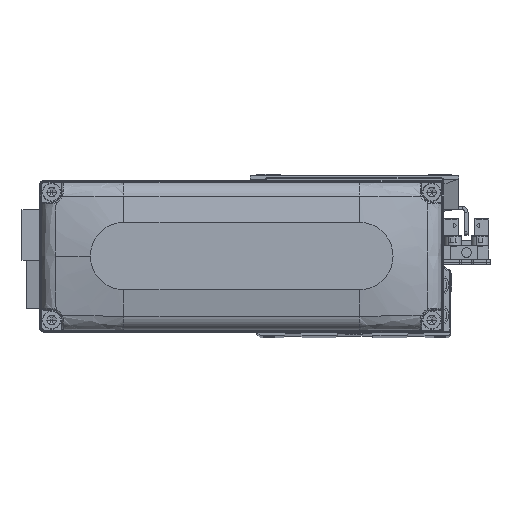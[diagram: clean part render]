
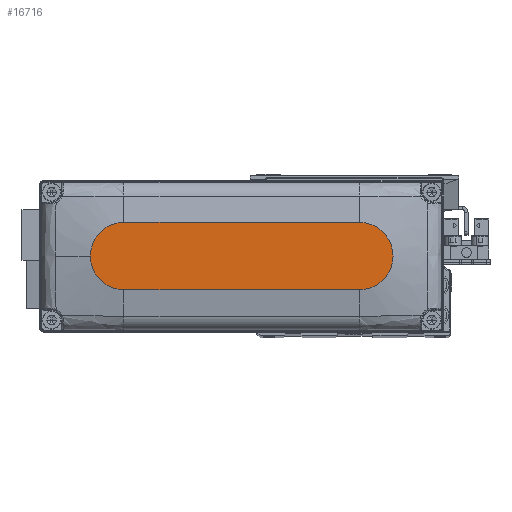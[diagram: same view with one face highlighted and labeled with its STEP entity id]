
A CAD part, top view. The second image highlights one B-rep face of the part: STEP entity #16716.
In plain terms, the highlighted planar face has unit normal (0, 0, 1).
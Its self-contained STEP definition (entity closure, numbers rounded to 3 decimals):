
#38 = EDGE_CURVE ( 'NONE', #31566, #33547, #14646, .T. ) ;
#902 = FACE_OUTER_BOUND ( 'NONE', #9800, .T. ) ;
#4597 = CARTESIAN_POINT ( 'NONE',  ( -35., -10., 28. ) ) ;
#4934 = DIRECTION ( 'NONE',  ( 1., 0., 0. ) ) ;
#4972 = EDGE_CURVE ( 'NONE', #35381, #32590, #33810, .T. ) ;
#6439 = DIRECTION ( 'NONE',  ( -1., 0., 0. ) ) ;
#6681 = AXIS2_PLACEMENT_3D ( 'NONE', #26923, #39911, #10688 ) ;
#7941 = DIRECTION ( 'NONE',  ( 1., 0., 0. ) ) ;
#8014 = CARTESIAN_POINT ( 'NONE',  ( 35., -10., 28. ) ) ;
#8061 = AXIS2_PLACEMENT_3D ( 'NONE', #21137, #34154, #4934 ) ;
#8612 = CARTESIAN_POINT ( 'NONE',  ( -35., 10., 28. ) ) ;
#8687 = CARTESIAN_POINT ( 'NONE',  ( 35., 10., 28. ) ) ;
#9800 = EDGE_LOOP ( 'NONE', ( #17842, #14691, #24577, #22629, #41494 ) ) ;
#10688 = DIRECTION ( 'NONE',  ( 1., 0., 0. ) ) ;
#11313 = EDGE_CURVE ( 'NONE', #32590, #31566, #39185, .T. ) ;
#12531 = CARTESIAN_POINT ( 'NONE',  ( 35., 0., 28. ) ) ;
#12786 = CARTESIAN_POINT ( 'NONE',  ( -35., -10., 28. ) ) ;
#13881 = PLANE ( 'NONE',  #6681 ) ;
#14081 = CARTESIAN_POINT ( 'NONE',  ( 45., 0., 28. ) ) ;
#14646 = CIRCLE ( 'NONE', #38500, 10. ) ;
#14691 = ORIENTED_EDGE ( 'NONE', *, *, #16831, .T. ) ;
#16564 = EDGE_CURVE ( 'NONE', #33547, #41155, #22670, .T. ) ;
#16716 = ADVANCED_FACE ( 'NONE', ( #902 ), #13881, .T. ) ;
#16831 = EDGE_CURVE ( 'NONE', #41155, #35381, #26453, .T. ) ;
#17591 = DIRECTION ( 'NONE',  ( 1., 0., 0. ) ) ;
#17842 = ORIENTED_EDGE ( 'NONE', *, *, #16564, .T. ) ;
#20807 = AXIS2_PLACEMENT_3D ( 'NONE', #12531, #25545, #38549 ) ;
#21137 = CARTESIAN_POINT ( 'NONE',  ( -35., 0., 28. ) ) ;
#22629 = ORIENTED_EDGE ( 'NONE', *, *, #11313, .T. ) ;
#22670 = LINE ( 'NONE', #35667, #36661 ) ;
#23040 = VECTOR ( 'NONE', #17591, 1000. ) ;
#24158 = CARTESIAN_POINT ( 'NONE',  ( 35., 0., 28. ) ) ;
#24577 = ORIENTED_EDGE ( 'NONE', *, *, #4972, .T. ) ;
#25545 = DIRECTION ( 'NONE',  ( 0., 0., 1. ) ) ;
#26453 = CIRCLE ( 'NONE', #8061, 10. ) ;
#26923 = CARTESIAN_POINT ( 'NONE',  ( 0., 0., 28. ) ) ;
#31566 = VERTEX_POINT ( 'NONE', #14081 ) ;
#32590 = VERTEX_POINT ( 'NONE', #8014 ) ;
#33547 = VERTEX_POINT ( 'NONE', #8687 ) ;
#33810 = LINE ( 'NONE', #4597, #23040 ) ;
#34154 = DIRECTION ( 'NONE',  ( 0., 0., 1. ) ) ;
#35381 = VERTEX_POINT ( 'NONE', #12786 ) ;
#35667 = CARTESIAN_POINT ( 'NONE',  ( -35., 10., 28. ) ) ;
#36661 = VECTOR ( 'NONE', #6439, 1000. ) ;
#37166 = DIRECTION ( 'NONE',  ( 0., 0., 1. ) ) ;
#38500 = AXIS2_PLACEMENT_3D ( 'NONE', #24158, #37166, #7941 ) ;
#38549 = DIRECTION ( 'NONE',  ( 1., 0., 0. ) ) ;
#39185 = CIRCLE ( 'NONE', #20807, 10. ) ;
#39911 = DIRECTION ( 'NONE',  ( 0., 0., 1. ) ) ;
#41155 = VERTEX_POINT ( 'NONE', #8612 ) ;
#41494 = ORIENTED_EDGE ( 'NONE', *, *, #38, .T. ) ;
